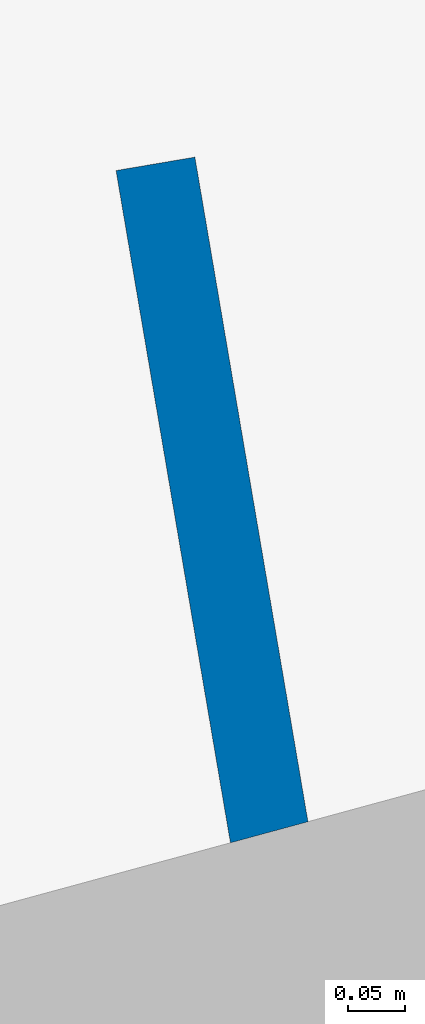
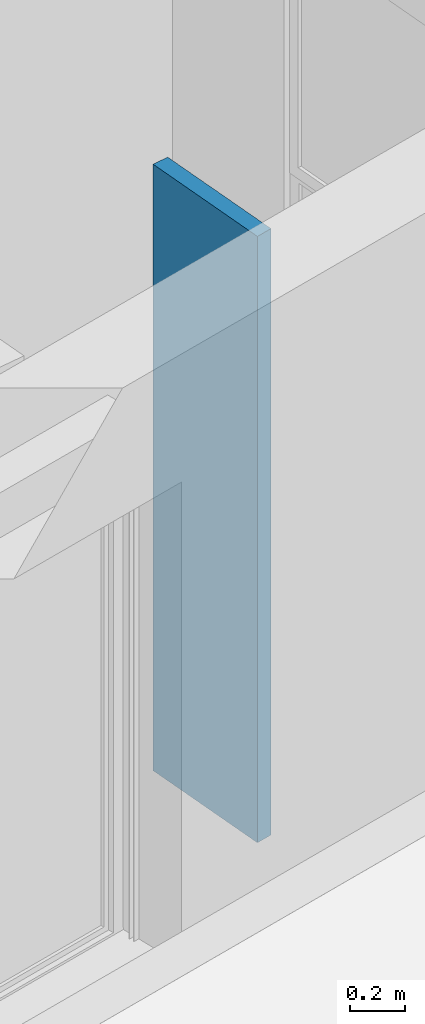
# One storey, part 71 of 121: 1 wall.
"""IFC2X3 building model written with IfcOpenShell, lengths in metres."""

from ifc_helpers import new_model, entity, si_unit, converted_unit, derived_unit, money_unit, direction, frame, origin_with_axes, place, context, subcontext, project, spatial, polyline, outline, extrude, material, layer, layer_set, layer_usage, type_object, element, save


model = new_model("IFC2X3")

# Units and contexts
model_context = context("Model", 3, precision=1e-05, world=origin_with_axes(), true_north=direction((0.0, 1.0)))
body_context = subcontext(model_context, "Body", "Model", "MODEL_VIEW")
ifc_project = project(units=[si_unit("LENGTHUNIT", "METRE"), si_unit("AREAUNIT", "SQUARE_METRE"), si_unit("VOLUMEUNIT", "CUBIC_METRE"), converted_unit("PLANEANGLEUNIT", "DEGREE", entity("IfcPlaneAngleMeasure", 0.0174532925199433), si_unit("PLANEANGLEUNIT", "RADIAN"), dimensions=[0, 0, 0, 0, 0, 0, 0]), money_unit("CHF"), converted_unit("TIMEUNIT", "Year", entity("IfcTimeMeasure", 31557600.0), si_unit("TIMEUNIT", "SECOND"), dimensions=[0, 0, 1, 0, 0, 0, 0]), si_unit("MASSUNIT", "GRAM", prefix="KILO"), si_unit("THERMODYNAMICTEMPERATUREUNIT", "DEGREE_CELSIUS"), si_unit("LUMINOUSINTENSITYUNIT", "LUMEN"), si_unit("ENERGYUNIT", "JOULE", prefix="MEGA"), derived_unit("THERMALCONDUCTANCEUNIT", [(si_unit("POWERUNIT", "WATT"), 1), (si_unit("LENGTHUNIT", "METRE"), -1), (si_unit("THERMODYNAMICTEMPERATUREUNIT", "KELVIN"), -1)]), derived_unit("SPECIFICHEATCAPACITYUNIT", [(si_unit("ENERGYUNIT", "JOULE"), 1), (si_unit("MASSUNIT", "GRAM", prefix="KILO"), -1), (si_unit("THERMODYNAMICTEMPERATUREUNIT", "KELVIN"), -1)]), derived_unit("MASSDENSITYUNIT", [(si_unit("MASSUNIT", "GRAM", prefix="KILO"), 1), (si_unit("VOLUMEUNIT", "CUBIC_METRE"), -1)])], contexts=[model_context])

# Site, building, storey
site_placement = place(None, origin_with_axes())
site = spatial("IfcSite", under=ifc_project, at=site_placement, Name="Site", CompositionType="ELEMENT")
building_placement = place(site_placement, origin_with_axes())
building = spatial("IfcBuilding", under=site, at=building_placement, Name="Bâtiment", CompositionType="ELEMENT")
storey_placement = place(building_placement, frame((0.0, 0.0, 2.75), z_axis=(0.0, 0.0, 1.0), x_axis=(1.0, 0.0, 0.0)))
storey = spatial("IfcBuildingStorey", under=building, at=storey_placement, Name="Etage 1", CompositionType="ELEMENT", Elevation=2.75)

# Wall
ifc_material = material(Name="Hachure solide 268963992")
ifc_layer = layer(ifc_material, 0.07, ventilated="UNKNOWN")
ifc_layer_set = layer_set([ifc_layer], Name="Cloison 70 0826278243")
ifc_layer_usage = layer_usage(ifc_layer_set, "AXIS2", "NEGATIVE", 0.0)
wall_type = type_object("IfcWallType", Name="Cloison 70 0826278243 70", PredefinedType="NOTDEFINED")
wall_placement = place(storey_placement, frame((9587.119102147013, -1033.2171160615, 57.7), z_axis=(0.0, 0.0, 1.0), x_axis=(0.1677527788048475, -0.9858290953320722, 0.0)))
element("IfcWallStandardCase", 1, at=wall_placement, inside=storey, type_object=wall_type, material=ifc_layer_usage, Name="Mur-149", context=body_context, shape_type="SweptSolid", body=[
    extrude(outline(polyline([(0.0, -0.07000000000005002), (0.5971669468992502, -0.06999999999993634), (0.5903340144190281, 0.0), (0.0, 0.0), (0.0, -0.07000000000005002)])), origin_with_axes(), (0.0, 0.0, 1.0), 2.7),
])

save(model, "model.ifc")
